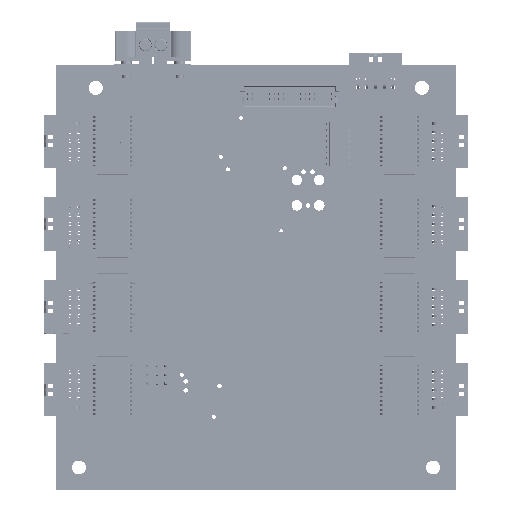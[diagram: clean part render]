
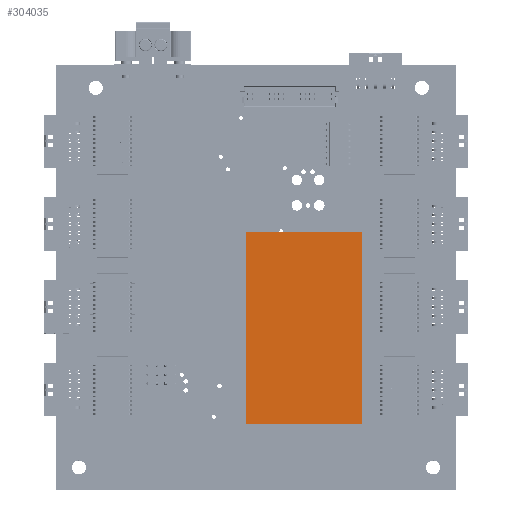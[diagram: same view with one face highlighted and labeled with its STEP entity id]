
A CAD part, top view. The second image highlights one B-rep face of the part: STEP entity #304035.
In plain terms, the highlighted planar face has unit normal (0, 0, 1) as drawn and (0, 1, 0) by its records, which use the part's own axes.
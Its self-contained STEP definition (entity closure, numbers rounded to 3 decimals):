
#303922 = VERTEX_POINT('',#303923);
#303923 = CARTESIAN_POINT('',(21.6,11.25,-13.125));
#303930 = PLANE('',#303931);
#303931 = AXIS2_PLACEMENT_3D('',#303932,#303933,#303934);
#303932 = CARTESIAN_POINT('',(13.125,5.75,13.125));
#303933 = DIRECTION('',(-0.544,0.839,0.));
#303934 = DIRECTION('',(-0.839,-0.544,0.));
#303942 = PLANE('',#303943);
#303943 = AXIS2_PLACEMENT_3D('',#303944,#303945,#303946);
#303944 = CARTESIAN_POINT('',(0.,-2.768,-13.125
    ));
#303945 = DIRECTION('',(0.,0.,1.));
#303946 = DIRECTION('',(1.,0.,0.));
#303954 = EDGE_CURVE('',#303955,#303922,#303957,.T.);
#303955 = VERTEX_POINT('',#303956);
#303956 = CARTESIAN_POINT('',(21.6,11.25,13.125));
#303957 = SURFACE_CURVE('',#303958,(#303962,#303969),.PCURVE_S1.);
#303958 = LINE('',#303959,#303960);
#303959 = CARTESIAN_POINT('',(21.6,11.25,13.125));
#303960 = VECTOR('',#303961,1.);
#303961 = DIRECTION('',(0.,0.,-1.));
#303962 = PCURVE('',#303930,#303963);
#303963 = DEFINITIONAL_REPRESENTATION('',(#303964),#303968);
#303964 = LINE('',#303965,#303966);
#303965 = CARTESIAN_POINT('',(-10.103,0.));
#303966 = VECTOR('',#303967,1.);
#303967 = DIRECTION('',(0.,-1.));
#303968 = ( GEOMETRIC_REPRESENTATION_CONTEXT(2) 
PARAMETRIC_REPRESENTATION_CONTEXT() REPRESENTATION_CONTEXT('2D SPACE',''
  ) );
#303969 = PCURVE('',#303970,#303975);
#303970 = PLANE('',#303971);
#303971 = AXIS2_PLACEMENT_3D('',#303972,#303973,#303974);
#303972 = CARTESIAN_POINT('',(-21.6,11.25,13.125));
#303973 = DIRECTION('',(0.,-1.,0.));
#303974 = DIRECTION('',(0.,0.,-1.));
#303975 = DEFINITIONAL_REPRESENTATION('',(#303976),#303980);
#303976 = LINE('',#303977,#303978);
#303977 = CARTESIAN_POINT('',(0.,43.2));
#303978 = VECTOR('',#303979,1.);
#303979 = DIRECTION('',(1.,0.));
#303980 = ( GEOMETRIC_REPRESENTATION_CONTEXT(2) 
PARAMETRIC_REPRESENTATION_CONTEXT() REPRESENTATION_CONTEXT('2D SPACE',''
  ) );
#303998 = PLANE('',#303999);
#303999 = AXIS2_PLACEMENT_3D('',#304000,#304001,#304002);
#304000 = CARTESIAN_POINT('',(0.,-2.768,13.125)
  );
#304001 = DIRECTION('',(0.,0.,1.));
#304002 = DIRECTION('',(1.,0.,0.));
#304035 = ADVANCED_FACE('',(#304036),#303970,.F.);
#304036 = FACE_BOUND('',#304037,.T.);
#304037 = EDGE_LOOP('',(#304038,#304061,#304089,#304110));
#304038 = ORIENTED_EDGE('',*,*,#304039,.T.);
#304039 = EDGE_CURVE('',#303922,#304040,#304042,.T.);
#304040 = VERTEX_POINT('',#304041);
#304041 = CARTESIAN_POINT('',(-21.6,11.25,-13.125));
#304042 = SURFACE_CURVE('',#304043,(#304047,#304054),.PCURVE_S1.);
#304043 = LINE('',#304044,#304045);
#304044 = CARTESIAN_POINT('',(-21.6,11.25,-13.125));
#304045 = VECTOR('',#304046,1.);
#304046 = DIRECTION('',(-1.,0.,0.));
#304047 = PCURVE('',#303970,#304048);
#304048 = DEFINITIONAL_REPRESENTATION('',(#304049),#304053);
#304049 = LINE('',#304050,#304051);
#304050 = CARTESIAN_POINT('',(26.25,0.));
#304051 = VECTOR('',#304052,1.);
#304052 = DIRECTION('',(0.,-1.));
#304053 = ( GEOMETRIC_REPRESENTATION_CONTEXT(2) 
PARAMETRIC_REPRESENTATION_CONTEXT() REPRESENTATION_CONTEXT('2D SPACE',''
  ) );
#304054 = PCURVE('',#303942,#304055);
#304055 = DEFINITIONAL_REPRESENTATION('',(#304056),#304060);
#304056 = LINE('',#304057,#304058);
#304057 = CARTESIAN_POINT('',(-21.6,14.018));
#304058 = VECTOR('',#304059,1.);
#304059 = DIRECTION('',(-1.,0.));
#304060 = ( GEOMETRIC_REPRESENTATION_CONTEXT(2) 
PARAMETRIC_REPRESENTATION_CONTEXT() REPRESENTATION_CONTEXT('2D SPACE',''
  ) );
#304061 = ORIENTED_EDGE('',*,*,#304062,.F.);
#304062 = EDGE_CURVE('',#304063,#304040,#304065,.T.);
#304063 = VERTEX_POINT('',#304064);
#304064 = CARTESIAN_POINT('',(-21.6,11.25,13.125));
#304065 = SURFACE_CURVE('',#304066,(#304070,#304077),.PCURVE_S1.);
#304066 = LINE('',#304067,#304068);
#304067 = CARTESIAN_POINT('',(-21.6,11.25,13.125));
#304068 = VECTOR('',#304069,1.);
#304069 = DIRECTION('',(0.,0.,-1.));
#304070 = PCURVE('',#303970,#304071);
#304071 = DEFINITIONAL_REPRESENTATION('',(#304072),#304076);
#304072 = LINE('',#304073,#304074);
#304073 = CARTESIAN_POINT('',(0.,0.));
#304074 = VECTOR('',#304075,1.);
#304075 = DIRECTION('',(1.,0.));
#304076 = ( GEOMETRIC_REPRESENTATION_CONTEXT(2) 
PARAMETRIC_REPRESENTATION_CONTEXT() REPRESENTATION_CONTEXT('2D SPACE',''
  ) );
#304077 = PCURVE('',#304078,#304083);
#304078 = PLANE('',#304079);
#304079 = AXIS2_PLACEMENT_3D('',#304080,#304081,#304082);
#304080 = CARTESIAN_POINT('',(-13.125,5.75,13.125));
#304081 = DIRECTION('',(0.544,0.839,0.));
#304082 = DIRECTION('',(-0.839,0.544,0.));
#304083 = DEFINITIONAL_REPRESENTATION('',(#304084),#304088);
#304084 = LINE('',#304085,#304086);
#304085 = CARTESIAN_POINT('',(10.103,0.));
#304086 = VECTOR('',#304087,1.);
#304087 = DIRECTION('',(0.,-1.));
#304088 = ( GEOMETRIC_REPRESENTATION_CONTEXT(2) 
PARAMETRIC_REPRESENTATION_CONTEXT() REPRESENTATION_CONTEXT('2D SPACE',''
  ) );
#304089 = ORIENTED_EDGE('',*,*,#304090,.F.);
#304090 = EDGE_CURVE('',#303955,#304063,#304091,.T.);
#304091 = SURFACE_CURVE('',#304092,(#304096,#304103),.PCURVE_S1.);
#304092 = LINE('',#304093,#304094);
#304093 = CARTESIAN_POINT('',(-21.6,11.25,13.125));
#304094 = VECTOR('',#304095,1.);
#304095 = DIRECTION('',(-1.,0.,0.));
#304096 = PCURVE('',#303970,#304097);
#304097 = DEFINITIONAL_REPRESENTATION('',(#304098),#304102);
#304098 = LINE('',#304099,#304100);
#304099 = CARTESIAN_POINT('',(0.,0.));
#304100 = VECTOR('',#304101,1.);
#304101 = DIRECTION('',(0.,-1.));
#304102 = ( GEOMETRIC_REPRESENTATION_CONTEXT(2) 
PARAMETRIC_REPRESENTATION_CONTEXT() REPRESENTATION_CONTEXT('2D SPACE',''
  ) );
#304103 = PCURVE('',#303998,#304104);
#304104 = DEFINITIONAL_REPRESENTATION('',(#304105),#304109);
#304105 = LINE('',#304106,#304107);
#304106 = CARTESIAN_POINT('',(-21.6,14.018));
#304107 = VECTOR('',#304108,1.);
#304108 = DIRECTION('',(-1.,0.));
#304109 = ( GEOMETRIC_REPRESENTATION_CONTEXT(2) 
PARAMETRIC_REPRESENTATION_CONTEXT() REPRESENTATION_CONTEXT('2D SPACE',''
  ) );
#304110 = ORIENTED_EDGE('',*,*,#303954,.T.);
